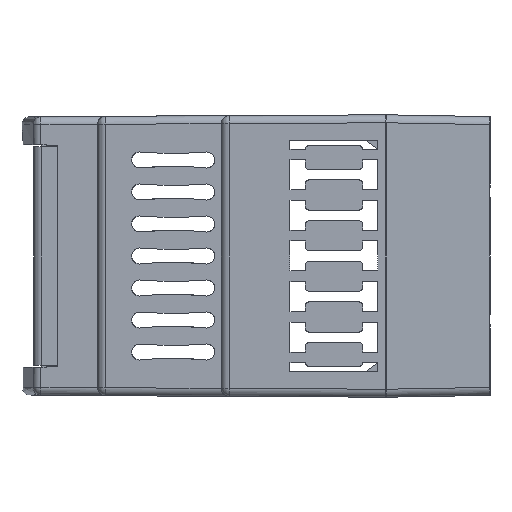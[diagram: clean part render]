
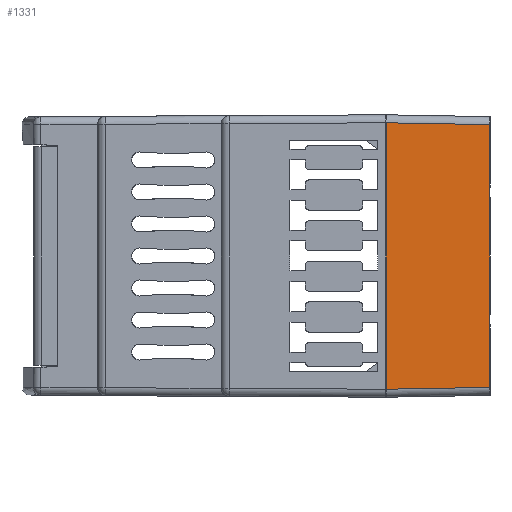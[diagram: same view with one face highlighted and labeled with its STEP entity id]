
A CAD part, left-side view. The second image highlights one B-rep face of the part: STEP entity #1331.
In plain terms, the highlighted planar face has unit normal (-1, -0.018, 0).
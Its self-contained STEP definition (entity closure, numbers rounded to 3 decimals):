
#1099 = ORIENTED_EDGE ( 'NONE', *, *, #22429, .T. ) ;
#1331 = ADVANCED_FACE ( 'NONE', ( #10123 ), #4439, .T. ) ;
#1528 = EDGE_LOOP ( 'NONE', ( #20485, #11602, #17889, #1099 ) ) ;
#1873 = VECTOR ( 'NONE', #16410, 1000. ) ;
#2188 = VERTEX_POINT ( 'NONE', #5084 ) ;
#2523 = CARTESIAN_POINT ( 'NONE',  ( -45.073, -13., -17.65 ) ) ;
#2606 = VECTOR ( 'NONE', #23947, 1000. ) ;
#2648 = VERTEX_POINT ( 'NONE', #22535 ) ;
#3364 = VECTOR ( 'NONE', #10050, 1000. ) ;
#4191 = CARTESIAN_POINT ( 'NONE',  ( -45.3, 0., 17.65 ) ) ;
#4439 = PLANE ( 'NONE',  #23913 ) ;
#4980 = LINE ( 'NONE', #20111, #2606 ) ;
#5084 = CARTESIAN_POINT ( 'NONE',  ( -45.073, -13., -16.423 ) ) ;
#6222 = LINE ( 'NONE', #2523, #3364 ) ;
#6394 = EDGE_CURVE ( 'NONE', #2188, #9713, #6222, .T. ) ;
#7141 = VERTEX_POINT ( 'NONE', #23757 ) ;
#9713 = VERTEX_POINT ( 'NONE', #15191 ) ;
#10050 = DIRECTION ( 'NONE',  ( 0., 0., 1. ) ) ;
#10123 = FACE_OUTER_BOUND ( 'NONE', #1528, .T. ) ;
#11602 = ORIENTED_EDGE ( 'NONE', *, *, #15953, .T. ) ;
#11730 = VECTOR ( 'NONE', #17859, 1000. ) ;
#14257 = LINE ( 'NONE', #20219, #11730 ) ;
#15191 = CARTESIAN_POINT ( 'NONE',  ( -45.073, -13., 16.423 ) ) ;
#15295 = LINE ( 'NONE', #22876, #1873 ) ;
#15953 = EDGE_CURVE ( 'NONE', #2648, #2188, #14257, .T. ) ;
#16410 = DIRECTION ( 'NONE',  ( -0.017, 1., 0.017 ) ) ;
#17574 = DIRECTION ( 'NONE',  ( 0.017, -1., 0. ) ) ;
#17744 = EDGE_CURVE ( 'NONE', #2648, #7141, #4980, .T. ) ;
#17859 = DIRECTION ( 'NONE',  ( 0.017, -1., 0.017 ) ) ;
#17889 = ORIENTED_EDGE ( 'NONE', *, *, #6394, .T. ) ;
#20111 = CARTESIAN_POINT ( 'NONE',  ( -45.3, 0., 17.65 ) ) ;
#20219 = CARTESIAN_POINT ( 'NONE',  ( -45.29, -0.598, -16.64 ) ) ;
#20485 = ORIENTED_EDGE ( 'NONE', *, *, #17744, .F. ) ;
#21542 = DIRECTION ( 'NONE',  ( -1., -0.017, 0. ) ) ;
#22429 = EDGE_CURVE ( 'NONE', #9713, #7141, #15295, .T. ) ;
#22535 = CARTESIAN_POINT ( 'NONE',  ( -45.3, 0., -16.65 ) ) ;
#22876 = CARTESIAN_POINT ( 'NONE',  ( -45.3, 0.017, 16.65 ) ) ;
#23757 = CARTESIAN_POINT ( 'NONE',  ( -45.3, 0., 16.65 ) ) ;
#23913 = AXIS2_PLACEMENT_3D ( 'NONE', #4191, #21542, #17574 ) ;
#23947 = DIRECTION ( 'NONE',  ( 0., 0., 1. ) ) ;
